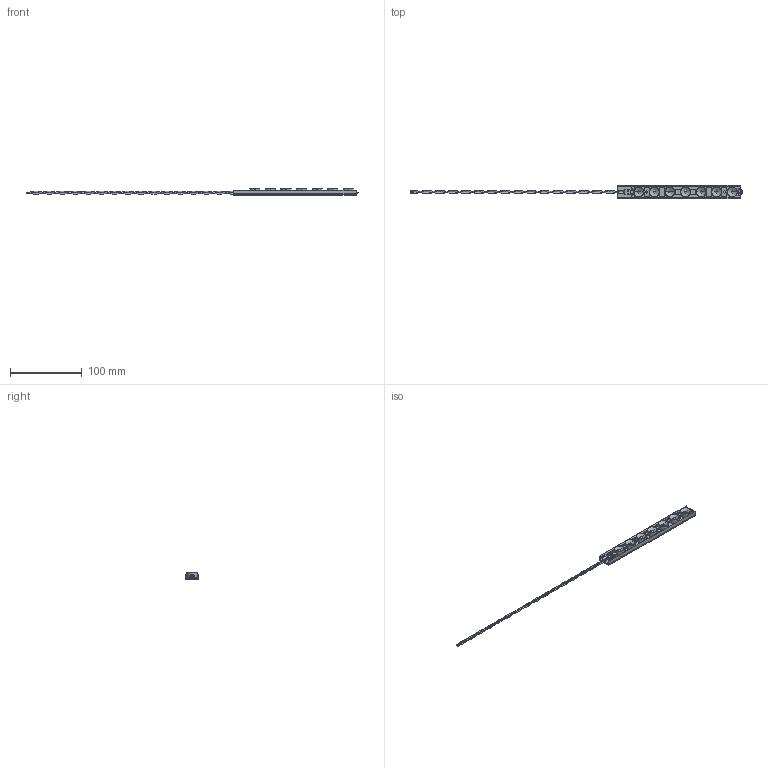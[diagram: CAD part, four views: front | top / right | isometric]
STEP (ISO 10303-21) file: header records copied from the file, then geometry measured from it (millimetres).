
FILE_DESCRIPTION (( 'STEP AP203' ), '1' );
FILE_NAME ('L09_6 in_10x10.STEP', '2020-05-15T16:50:24', ( '' ), ( '' ), 'SwSTEP 2.0', 'SolidWorks 2017', '' );
FILE_SCHEMA (( 'CONFIG_CONTROL_DESIGN' ));
Length unit declared in the file: millimetre
Products named in the file (12): REF-000074-00; PCB-000101_102-00_PCB-000101-00; L09_6 in_10x10; ACB-000214-00; OPC-000137-00; CON-000198-00; HSG-000250-00_FOR 6 IN 10x10; AVX-60-9159-3402-0X-000_60-9159-3402-0X-000; CON-000199-00; AVX-11-9159-002-101-916_11-9159-002-101-X16_With wires; ASY-006401-00; AVX-60-9159-3302-0X-000_60-9159-3302-0X-000
Assembly tree (17 placements, depth 3):
  L09_6 in_10x10
    PCB-000101_102-00_PCB-000101-00
    HSG-000250-00_FOR 6 IN 10x10
    CON-000199-00
    CON-000198-00
    ASY-006401-00
      REF-000074-00
      OPC-000137-00  x7
    ACB-000214-00
      AVX-11-9159-002-101-916_11-9159-002-101-X16_With wires
      AVX-60-9159-3302-0X-000_60-9159-3302-0X-000
      AVX-60-9159-3402-0X-000_60-9159-3402-0X-000
Bounding box: 464.1 x 18.5 x 9.1 mm (x, y, z)
Volume: 16609.9 mm3; surface area: 30007 mm2
Topology: 15 solids, 17 shells, 974 faces, 2518 edges, 1568 vertices
Faces by surface type: plane 537, cylinder 230, bspline 173, cone 33, torus 1
Entity records: 36325 total; most frequent: CARTESIAN_POINT 14331, ORIENTED_EDGE 4452, DIRECTION 4067, EDGE_CURVE 2226, LINE 1499, VECTOR 1499, VERTEX_POINT 1424, AXIS2_PLACEMENT_3D 1284
